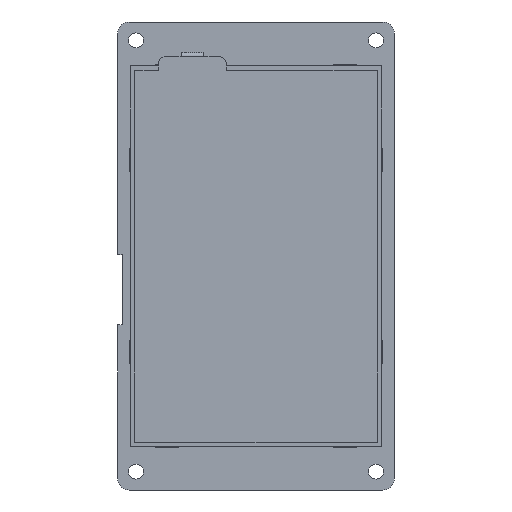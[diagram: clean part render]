
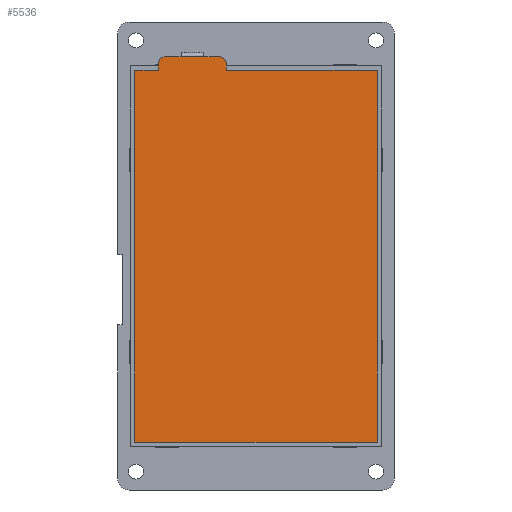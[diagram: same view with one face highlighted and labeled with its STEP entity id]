
A CAD part, front view. The second image highlights one B-rep face of the part: STEP entity #5536.
In plain terms, the highlighted planar face has unit normal (0, -1, 0).
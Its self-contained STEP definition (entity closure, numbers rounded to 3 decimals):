
#1455=DIRECTION('',(-1.,0.,0.));
#1456=VECTOR('',#1455,3.5);
#1457=CARTESIAN_POINT('',(-16.534,-6.4,44.));
#1458=LINE('',#1457,#1456);
#1463=DIRECTION('',(-1.,0.,0.));
#1464=VECTOR('',#1463,3.5);
#1465=CARTESIAN_POINT('',(-8.034,-6.4,44.));
#1466=LINE('',#1465,#1464);
#1556=CARTESIAN_POINT('',(-20.034,-6.4,42.5));
#1557=DIRECTION('',(0.,-1.,0.));
#1558=DIRECTION('',(0.,0.,1.));
#1559=AXIS2_PLACEMENT_3D('',#1556,#1557,#1558);
#1561=DIRECTION('',(-1.,0.,0.));
#1562=VECTOR('',#1561,5.);
#1563=CARTESIAN_POINT('',(-11.534,-6.4,44.));
#1564=LINE('',#1563,#1562);
#1565=CARTESIAN_POINT('',(-8.034,-6.4,42.5));
#1566=DIRECTION('',(0.,-1.,0.));
#1567=DIRECTION('',(1.,0.,0.));
#1568=AXIS2_PLACEMENT_3D('',#1565,#1566,#1567);
#1570=DIRECTION('',(0.,0.,1.));
#1571=VECTOR('',#1570,1.5);
#1572=CARTESIAN_POINT('',(-6.534,-6.4,41.));
#1573=LINE('',#1572,#1571);
#1574=DIRECTION('',(1.,0.,0.));
#1575=VECTOR('',#1574,33.284);
#1576=CARTESIAN_POINT('',(-6.534,-6.4,41.));
#1577=LINE('',#1576,#1575);
#1578=DIRECTION('',(0.,0.,-1.));
#1579=VECTOR('',#1578,82.);
#1580=CARTESIAN_POINT('',(26.75,-6.4,41.));
#1581=LINE('',#1580,#1579);
#1582=DIRECTION('',(-1.,0.,0.));
#1583=VECTOR('',#1582,53.5);
#1584=CARTESIAN_POINT('',(26.75,-6.4,-41.));
#1585=LINE('',#1584,#1583);
#1586=DIRECTION('',(0.,0.,1.));
#1587=VECTOR('',#1586,82.);
#1588=CARTESIAN_POINT('',(-26.75,-6.4,-41.));
#1589=LINE('',#1588,#1587);
#1590=DIRECTION('',(1.,0.,0.));
#1591=VECTOR('',#1590,5.217);
#1592=CARTESIAN_POINT('',(-26.75,-6.4,41.));
#1593=LINE('',#1592,#1591);
#1594=DIRECTION('',(0.,0.,-1.));
#1595=VECTOR('',#1594,1.5);
#1596=CARTESIAN_POINT('',(-21.534,-6.4,42.5));
#1597=LINE('',#1596,#1595);
#3366=CARTESIAN_POINT('',(26.75,-6.4,-41.));
#3367=CARTESIAN_POINT('',(-26.75,-6.4,-41.));
#3368=VERTEX_POINT('',#3366);
#3369=VERTEX_POINT('',#3367);
#3370=CARTESIAN_POINT('',(-26.75,-6.4,41.));
#3371=VERTEX_POINT('',#3370);
#3376=CARTESIAN_POINT('',(26.75,-6.4,41.));
#3377=VERTEX_POINT('',#3376);
#3474=CARTESIAN_POINT('',(-6.534,-6.4,41.));
#3475=VERTEX_POINT('',#3474);
#3476=CARTESIAN_POINT('',(-21.534,-6.4,41.));
#3477=VERTEX_POINT('',#3476);
#3494=CARTESIAN_POINT('',(-11.534,-6.4,44.));
#3495=CARTESIAN_POINT('',(-16.534,-6.4,44.));
#3496=VERTEX_POINT('',#3494);
#3497=VERTEX_POINT('',#3495);
#3502=CARTESIAN_POINT('',(-20.034,-6.4,44.));
#3503=VERTEX_POINT('',#3502);
#3504=CARTESIAN_POINT('',(-21.534,-6.4,42.5));
#3505=VERTEX_POINT('',#3504);
#3510=CARTESIAN_POINT('',(-6.534,-6.4,42.5));
#3511=VERTEX_POINT('',#3510);
#3512=CARTESIAN_POINT('',(-8.034,-6.4,44.));
#3513=VERTEX_POINT('',#3512);
#5513=CARTESIAN_POINT('',(0.,-6.4,0.064));
#5514=DIRECTION('',(0.,-1.,0.));
#5515=DIRECTION('',(0.,0.,-1.));
#5516=AXIS2_PLACEMENT_3D('',#5513,#5514,#5515);
#5517=PLANE('',#5516);
#5518=ORIENTED_EDGE('',*,*,#5294,.F.);
#5519=ORIENTED_EDGE('',*,*,#5326,.F.);
#5520=ORIENTED_EDGE('',*,*,#5487,.F.);
#5521=ORIENTED_EDGE('',*,*,#5338,.F.);
#5523=ORIENTED_EDGE('',*,*,#5522,.F.);
#5525=ORIENTED_EDGE('',*,*,#5524,.F.);
#5526=ORIENTED_EDGE('',*,*,#5237,.T.);
#5528=ORIENTED_EDGE('',*,*,#5527,.T.);
#5529=ORIENTED_EDGE('',*,*,#5201,.T.);
#5530=ORIENTED_EDGE('',*,*,#5216,.T.);
#5531=ORIENTED_EDGE('',*,*,#5231,.T.);
#5533=ORIENTED_EDGE('',*,*,#5532,.F.);
#5534=EDGE_LOOP('',(#5518,#5519,#5520,#5521,#5523,#5525,#5526,#5528,#5529,#5530,
#5531,#5533));
#5535=FACE_OUTER_BOUND('',#5534,.F.);
#1560=CIRCLE('',#1559,1.5);
#1569=CIRCLE('',#1568,1.5);
#5201=EDGE_CURVE('',#3368,#3369,#1585,.T.);
#5216=EDGE_CURVE('',#3369,#3371,#1589,.T.);
#5231=EDGE_CURVE('',#3371,#3477,#1593,.T.);
#5237=EDGE_CURVE('',#3475,#3377,#1577,.T.);
#5294=EDGE_CURVE('',#3503,#3505,#1560,.T.);
#5326=EDGE_CURVE('',#3497,#3503,#1458,.T.);
#5338=EDGE_CURVE('',#3513,#3496,#1466,.T.);
#5487=EDGE_CURVE('',#3496,#3497,#1564,.T.);
#5522=EDGE_CURVE('',#3511,#3513,#1569,.T.);
#5524=EDGE_CURVE('',#3475,#3511,#1573,.T.);
#5527=EDGE_CURVE('',#3377,#3368,#1581,.T.);
#5532=EDGE_CURVE('',#3505,#3477,#1597,.T.);
#5536=ADVANCED_FACE('',(#5535),#5517,.T.);
